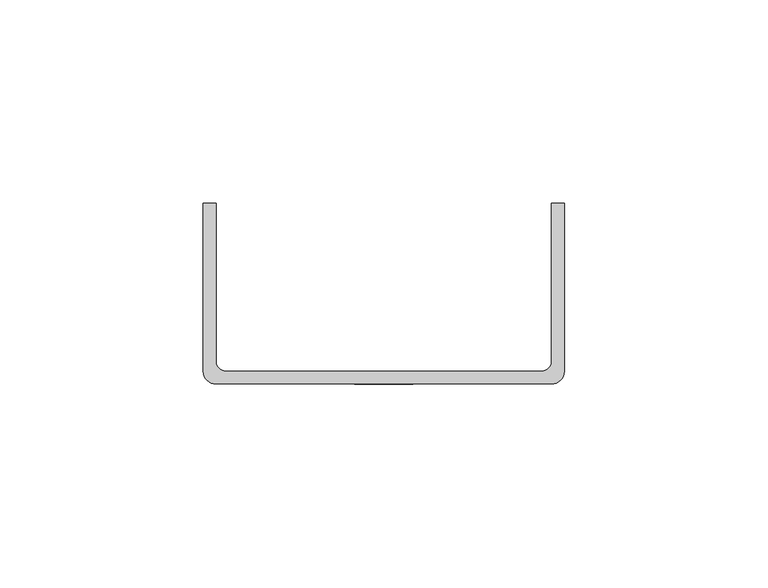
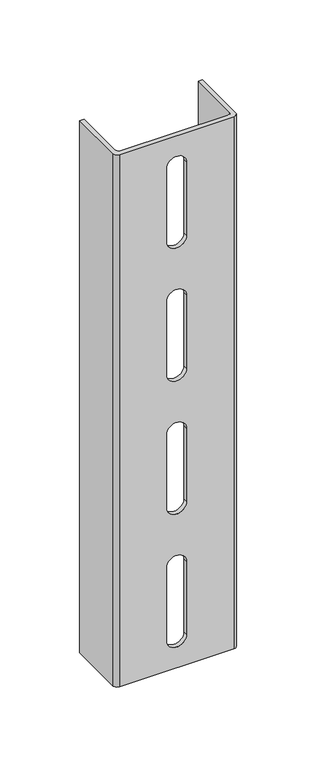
"""IFC4 building model written with IfcOpenShell, lengths in millimetres: proxy geometry, 14NSF-S14 : 14NSF-S14_Latest."""

from ifc_helpers import new_model, si_unit, frame, origin, place, context, project, spatial, polyline, circle_curve, source, transform, mapped, element, save
from ifc_brep_helpers import plane_surface, cylinder_surface, revolved_surface, advanced_brep


def generic_models_3a623070(model_context):
    return source(origin(), model_context, "Body", "AdvancedBrep", [
        advanced_brep(
        [(-44.45, 44.45, 406.4), (-44.45, 3.175, 406.4), (-41.275, 0.0, 406.4), (41.275, 0.0, 406.4), (44.45, 3.175, 406.4), (44.45, 44.45, 406.4), (41.275, 44.45, 406.4), (41.275, 5.55625, 406.4), (38.89375, 3.175, 406.4), (-38.89375, 3.175, 406.4), (-41.275, 5.55625, 406.4), (-41.275, 44.45, 406.4), (-44.45, 3.175, 0.0), (-44.45, 44.45, 0.0), (-41.275, 44.45, 0.0), (-41.275, 5.55625, 0.0), (-38.89375, 3.175, 0.0), (38.89375, 3.175, 0.0), (41.275, 5.55625, 0.0), (41.275, 44.45, 0.0), (44.45, 44.45, 0.0), (44.45, 3.175, 0.0), (41.275, 0.0, 0.0), (-41.275, 0.0, 0.0), (7.14375, 0.0, 383.3874249), (7.14375, 0.0, 327.8125751), (-7.14375, 0.0, 327.8125751), (-7.14375, 0.0, 383.3874249), (7.14375, 0.0, 180.1874249), (7.14375, 0.0, 124.6125751), (-7.14375, 0.0, 124.6125751), (-7.14375, 0.0, 180.1874249), (7.14375, 0.0, 281.7874249), (7.14375, 0.0, 226.2125751), (-7.14375, 0.0, 226.2125751), (-7.14375, 0.0, 281.7874249), (7.14375, 0.0, 78.5874249), (7.14375, 0.0, 23.0125751), (-7.14375, 0.0, 23.0125751), (-7.14375, 0.0, 78.5874249), (7.14375, 3.175, 327.8125751), (7.14375, 3.175, 383.3874249), (-7.14375, 3.175, 383.3874249), (-7.14375, 3.175, 327.8125751), (7.14375, 3.175, 124.6125751), (7.14375, 3.175, 180.1874249), (-7.14375, 3.175, 180.1874249), (-7.14375, 3.175, 124.6125751), (7.14375, 3.175, 226.2125751), (7.14375, 3.175, 281.7874249), (-7.14375, 3.175, 281.7874249), (-7.14375, 3.175, 226.2125751), (7.14375, 3.175, 23.0125751), (7.14375, 3.175, 78.5874249), (-7.14375, 3.175, 78.5874249), (-7.14375, 3.175, 23.0125751)],
        [
            (0, 1),
            (1, 2, circle_curve(frame((-41.275, 3.175, 406.4), z_axis=(0.0, 0.0, 1.0), x_axis=(1.0, 0.0, 0.0)), 3.175)),
            (2, 3),
            (3, 4, circle_curve(frame((41.275, 3.175, 406.4), z_axis=(0.0, 0.0, 1.0), x_axis=(1.0, 0.0, 0.0)), 3.175)),
            (4, 5),
            (5, 6),
            (6, 7),
            (7, 8, circle_curve(frame((38.89375, 5.55625, 406.4), z_axis=(0.0, 0.0, -1.0), x_axis=(1.0, 0.0, 0.0)), 2.38125)),
            (8, 9),
            (9, 10, circle_curve(frame((-38.89375, 5.55625, 406.4), z_axis=(0.0, 0.0, -1.0), x_axis=(1.0, 0.0, 0.0)), 2.38125)),
            (10, 11),
            (11, 0),
            (12, 13),
            (13, 14),
            (14, 15),
            (15, 16, circle_curve(frame((-38.89375, 5.55625, 0.0), z_axis=(0.0, 0.0, 1.0), x_axis=(1.0, 0.0, 0.0)), 2.38125)),
            (16, 17),
            (17, 18, circle_curve(frame((38.89375, 5.55625, 0.0), z_axis=(0.0, 0.0, 1.0), x_axis=(1.0, 0.0, 0.0)), 2.38125)),
            (18, 19),
            (19, 20),
            (20, 21),
            (21, 22, circle_curve(frame((41.275, 3.175, 0.0), z_axis=(0.0, 0.0, -1.0), x_axis=(1.0, 0.0, 0.0)), 3.175)),
            (22, 23),
            (23, 12, circle_curve(frame((-41.275, 3.175, 0.0), z_axis=(0.0, 0.0, -1.0), x_axis=(1.0, 0.0, 0.0)), 3.175)),
            (0, 13),
            (12, 1),
            (23, 2),
            (22, 3),
            (24, 25),
            (25, 26, circle_curve(frame((0.0, 0.0, 327.8125751), z_axis=(0.0, 1.0, 0.0), x_axis=(1.0, 0.0, 0.0)), 7.14375)),
            (26, 27),
            (27, 24, circle_curve(frame((0.0, 0.0, 383.3874249), z_axis=(0.0, 1.0, 0.0), x_axis=(1.0, 0.0, 0.0)), 7.14375)),
            (28, 29),
            (29, 30, circle_curve(frame((0.0, 0.0, 124.6125751), z_axis=(0.0, 1.0, 0.0), x_axis=(1.0, 0.0, 0.0)), 7.14375)),
            (30, 31),
            (31, 28, circle_curve(frame((0.0, 0.0, 180.1874249), z_axis=(0.0, 1.0, 0.0), x_axis=(1.0, 0.0, 0.0)), 7.14375)),
            (32, 33),
            (33, 34, circle_curve(frame((0.0, 0.0, 226.2125751), z_axis=(0.0, 1.0, 0.0), x_axis=(1.0, 0.0, 0.0)), 7.14375)),
            (34, 35),
            (35, 32, circle_curve(frame((0.0, 0.0, 281.7874249), z_axis=(0.0, 1.0, 0.0), x_axis=(1.0, 0.0, 0.0)), 7.14375)),
            (36, 37),
            (37, 38, circle_curve(frame((0.0, 0.0, 23.0125751), z_axis=(0.0, 1.0, 0.0), x_axis=(1.0, 0.0, 0.0)), 7.14375)),
            (38, 39),
            (39, 36, circle_curve(frame((0.0, 0.0, 78.5874249), z_axis=(0.0, 1.0, 0.0), x_axis=(1.0, 0.0, 0.0)), 7.14375)),
            (21, 4),
            (20, 5),
            (6, 19),
            (18, 7),
            (17, 8),
            (16, 9),
            (40, 41),
            (41, 42, circle_curve(frame((0.0, 3.175, 383.3874249), z_axis=(0.0, -1.0, 0.0), x_axis=(1.0, 0.0, 0.0)), 7.14375)),
            (42, 43),
            (43, 40, circle_curve(frame((0.0, 3.175, 327.8125751), z_axis=(0.0, -1.0, 0.0), x_axis=(1.0, 0.0, 0.0)), 7.14375)),
            (44, 45),
            (45, 46, circle_curve(frame((0.0, 3.175, 180.1874249), z_axis=(0.0, -1.0, 0.0), x_axis=(1.0, 0.0, 0.0)), 7.14375)),
            (46, 47),
            (47, 44, circle_curve(frame((0.0, 3.175, 124.6125751), z_axis=(0.0, -1.0, 0.0), x_axis=(1.0, 0.0, 0.0)), 7.14375)),
            (48, 49),
            (49, 50, circle_curve(frame((0.0, 3.175, 281.7874249), z_axis=(0.0, -1.0, 0.0), x_axis=(1.0, 0.0, 0.0)), 7.14375)),
            (50, 51),
            (51, 48, circle_curve(frame((0.0, 3.175, 226.2125751), z_axis=(0.0, -1.0, 0.0), x_axis=(1.0, 0.0, 0.0)), 7.14375)),
            (52, 53),
            (53, 54, circle_curve(frame((0.0, 3.175, 78.5874249), z_axis=(0.0, -1.0, 0.0), x_axis=(1.0, 0.0, 0.0)), 7.14375)),
            (54, 55),
            (55, 52, circle_curve(frame((0.0, 3.175, 23.0125751), z_axis=(0.0, -1.0, 0.0), x_axis=(1.0, 0.0, 0.0)), 7.14375)),
            (15, 10),
            (14, 11),
            (24, 41),
            (40, 25),
            (27, 42),
            (26, 43),
            (44, 29),
            (28, 45),
            (31, 46),
            (30, 47),
            (48, 33),
            (32, 49),
            (35, 50),
            (34, 51),
            (52, 37),
            (36, 53),
            (39, 54),
            (38, 55),
        ],
        [
            plane_surface(frame((-38.1, 3.175, 406.4), z_axis=(0.0, 0.0, 1.0), x_axis=(0.0, 1.0, 0.0))),
            plane_surface(frame((-38.1, 3.175, 0.0), z_axis=(0.0, 0.0, -1.0), x_axis=(0.0, -1.0, 0.0))),
            plane_surface(frame((-44.45, 44.45, 406.4), z_axis=(-1.0, 0.0, 0.0), x_axis=(0.0, 0.0, -1.0))),
            cylinder_surface(frame((-41.275, 3.175, 0.0), z_axis=(0.0, 0.0, 1.0), x_axis=(1.0, 0.0, 0.0)), 3.175),
            plane_surface(frame((-41.275, 0.0, 406.4), z_axis=(0.0, -1.0, 0.0), x_axis=(0.0, 0.0, -1.0))),
            cylinder_surface(frame((41.275, 3.175, 0.0), z_axis=(0.0, 0.0, 1.0), x_axis=(1.0, 0.0, 0.0)), 3.175),
            plane_surface(frame((44.45, 3.175, 406.4), z_axis=(1.0, 0.0, 0.0), x_axis=(0.0, 0.0, -1.0))),
            plane_surface(frame((41.275, 44.45, 406.4), z_axis=(-1.0, 0.0, 0.0), x_axis=(0.0, 0.0, -1.0))),
            revolved_surface(polyline([(41.275, 5.55625, 0.0), (41.275, 5.55625, 406.4)]), (38.89375, 5.55625, 0.0), (0.0, 0.0, -1.0)),
            plane_surface(frame((38.89375, 3.175, 406.4), z_axis=(0.0, 1.0, 0.0), x_axis=(0.0, 0.0, -1.0))),
            revolved_surface(polyline([(-36.512499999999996, 5.55625, 0.0), (-36.512499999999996, 5.55625, 406.4)]), (-38.89375, 5.55625, 0.0), (0.0, 0.0, -1.0)),
            plane_surface(frame((-41.275, 5.55625, 406.4), z_axis=(1.0, 0.0, 0.0), x_axis=(0.0, 0.0, -1.0))),
            plane_surface(frame((7.14375, -3.175, 327.8125751), z_axis=(-1.0, 0.0, 0.0), x_axis=(0.0, 1.0, 0.0))),
            revolved_surface(polyline([(7.14375, 0.0, 383.3874249), (7.14375, 3.175, 383.3874249)]), (0.0, 3.175, 383.3874249), (0.0, -1.0, 0.0)),
            plane_surface(frame((-7.14375, -3.175, 383.3874249), z_axis=(1.0, 0.0, 0.0), x_axis=(0.0, 1.0, 0.0))),
            revolved_surface(polyline([(7.14375, 0.0, 327.8125751), (7.14375, 3.175, 327.8125751)]), (0.0, 3.175, 327.8125751), (0.0, -1.0, 0.0)),
            plane_surface(frame((7.14375, -3.175, 124.6125751), z_axis=(-1.0, 0.0, 0.0), x_axis=(0.0, 1.0, 0.0))),
            revolved_surface(polyline([(7.14375, 0.0, 180.1874249), (7.14375, 3.175, 180.1874249)]), (0.0, 3.175, 180.1874249), (0.0, -1.0, 0.0)),
            plane_surface(frame((-7.14375, -3.175, 180.1874249), z_axis=(1.0, 0.0, 0.0), x_axis=(0.0, 1.0, 0.0))),
            revolved_surface(polyline([(7.14375, 0.0, 124.6125751), (7.14375, 3.175, 124.6125751)]), (0.0, 3.175, 124.6125751), (0.0, -1.0, 0.0)),
            plane_surface(frame((7.14375, -3.175, 226.2125751), z_axis=(-1.0, 0.0, 0.0), x_axis=(0.0, 1.0, 0.0))),
            revolved_surface(polyline([(7.14375, 0.0, 281.7874249), (7.14375, 3.175, 281.7874249)]), (0.0, 3.175, 281.7874249), (0.0, -1.0, 0.0)),
            plane_surface(frame((-7.14375, -3.175, 281.7874249), z_axis=(1.0, 0.0, 0.0), x_axis=(0.0, 1.0, 0.0))),
            revolved_surface(polyline([(7.14375, 0.0, 226.2125751), (7.14375, 3.175, 226.2125751)]), (0.0, 3.175, 226.2125751), (0.0, -1.0, 0.0)),
            plane_surface(frame((44.45, 44.45, 406.4), z_axis=(0.0, 1.0, 0.0), x_axis=(0.0, 0.0, -1.0))),
            plane_surface(frame((-41.275, 44.45, 406.4), z_axis=(0.0, 1.0, 0.0), x_axis=(0.0, 0.0, -1.0))),
            plane_surface(frame((7.14375, -3.175, 23.0125751), z_axis=(-1.0, 0.0, 0.0), x_axis=(0.0, 1.0, 0.0))),
            revolved_surface(polyline([(7.14375, 0.0, 78.5874249), (7.14375, 3.175, 78.5874249)]), (0.0, 3.175, 78.5874249), (0.0, -1.0, 0.0)),
            plane_surface(frame((-7.14375, -3.175, 78.5874249), z_axis=(1.0, 0.0, 0.0), x_axis=(0.0, 1.0, 0.0))),
            revolved_surface(polyline([(7.14375, 0.0, 23.0125751), (7.14375, 3.175, 23.0125751)]), (0.0, 3.175, 23.0125751), (0.0, -1.0, 0.0)),
        ],
        [
            (0, [[1, 2, 3, 4, 5, 6, 7, 8, 9, 10, 11, 12]]),
            (1, [[13, 14, 15, 16, 17, 18, 19, 20, 21, 22, 23, 24]]),
            (2, [[-1, 25, -13, 26]]),
            (3, [[-2, -26, -24, 27]]),
            (4, [[-3, -27, -23, 28], [29, 30, 31, 32], [33, 34, 35, 36], [37, 38, 39, 40], [41, 42, 43, 44]]),
            (5, [[-4, -28, -22, 45]]),
            (6, [[-5, -45, -21, 46]]),
            (7, [[-7, 47, -19, 48]]),
            (8, [[-8, -48, -18, 49]]),
            (9, [[-9, -49, -17, 50], [51, 52, 53, 54], [55, 56, 57, 58], [59, 60, 61, 62], [63, 64, 65, 66]]),
            (10, [[-10, -50, -16, 67]]),
            (11, [[-11, -67, -15, 68]]),
            (12, [[69, -51, 70, -29]]),
            (13, [[-69, -32, 71, -52]]),
            (14, [[72, -53, -71, -31]]),
            (15, [[-70, -54, -72, -30]]),
            (16, [[73, -33, 74, -55]]),
            (17, [[-74, -36, 75, -56]]),
            (18, [[-75, -35, 76, -57]]),
            (19, [[-73, -58, -76, -34]]),
            (20, [[77, -37, 78, -59]]),
            (21, [[-78, -40, 79, -60]]),
            (22, [[-79, -39, 80, -61]]),
            (23, [[-77, -62, -80, -38]]),
            (24, [[-6, -46, -20, -47]]),
            (25, [[-12, -68, -14, -25]]),
            (26, [[81, -41, 82, -63]]),
            (27, [[-82, -44, 83, -64]]),
            (28, [[-83, -43, 84, -65]]),
            (29, [[-81, -66, -84, -42]]),
        ],
    ),
    ])


if __name__ == "__main__":
    model = new_model("IFC4")
    model_context = context("Model", 3, world=origin())
    ifc_project = project(units=[si_unit("LENGTHUNIT", "METRE", prefix="MILLI")], contexts=[model_context])
    site = spatial("IfcSite", under=ifc_project)
    building = spatial("IfcBuilding", under=site)
    placement = place(None, origin())
    generic_models_shape = generic_models_3a623070(model_context)
    element("IfcBuildingElementProxy", 1, Name="14NSF-S14 : 14NSF-S14_Latest", ObjectType="14NSF-S14 : 14NSF-S14_Latest", at=placement, inside=building, context=model_context, shape_type="MappedRepresentation", body=[
        mapped(generic_models_shape, transform((0.0, 0.0, 0.0), x_axis=(1.0, 0.0, 0.0), y_axis=(0.0, 1.0, 0.0), z_axis=(0.0, 0.0, 1.0))),
    ])
    save(model, "model.ifc")
